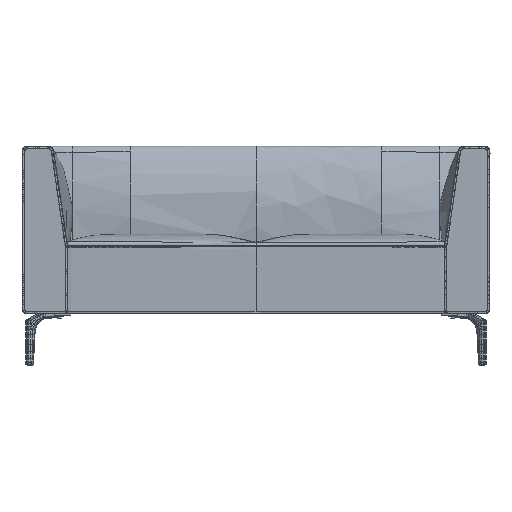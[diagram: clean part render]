
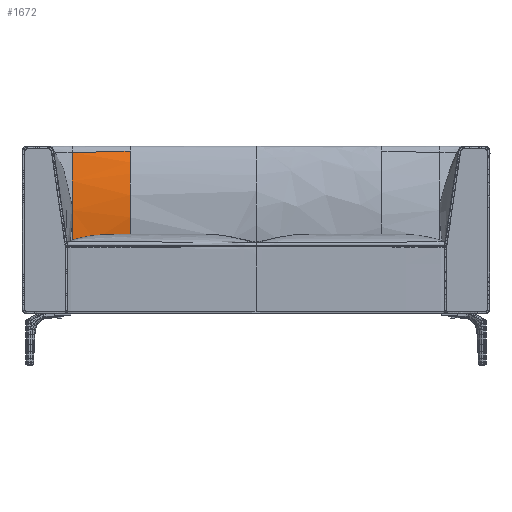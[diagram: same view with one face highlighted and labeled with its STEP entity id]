
A CAD part, front view. The second image highlights one B-rep face of the part: STEP entity #1672.
In plain terms, the highlighted free-form (B-spline) face has degree [3, 3] with [7, 7] control points.
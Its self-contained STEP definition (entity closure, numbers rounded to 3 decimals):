
#1672=ADVANCED_FACE('',(#3356),#24340,.T.);
#3356=FACE_OUTER_BOUND('',#5056,.T.);
#5056=EDGE_LOOP('',(#7639,#7640,#7641,#7642));
#7639=ORIENTED_EDGE('',*,*,#14741,.T.);
#7640=ORIENTED_EDGE('',*,*,#14742,.T.);
#7641=ORIENTED_EDGE('',*,*,#14743,.T.);
#7642=ORIENTED_EDGE('',*,*,#14771,.T.);
#14741=EDGE_CURVE('',#22268,#22269,#18303,.T.);
#14742=EDGE_CURVE('',#22269,#22270,#18304,.T.);
#14743=EDGE_CURVE('',#22270,#22271,#18305,.T.);
#14771=EDGE_CURVE('',#22271,#22268,#18332,.T.);
#18303=B_SPLINE_CURVE_WITH_KNOTS('',3,(#70292,#70293,#70294,#70295),
 .UNSPECIFIED.,.F.,.F.,(4,4),(0.,321.119),.UNSPECIFIED.);
#18304=B_SPLINE_CURVE_WITH_KNOTS('',3,(#70296,#70297,#70298,#70299,#70300),
 .UNSPECIFIED.,.F.,.F.,(4,1,4),(0.,164.748,198.679),
 .UNSPECIFIED.);
#18305=B_SPLINE_CURVE_WITH_KNOTS('',3,(#70301,#70302,#70303,#70304,#70305,
#70306,#70307,#70308,#70309,#70310),.UNSPECIFIED.,.F.,.F.,(4,2,2,2,4),(0.,
172.178,258.636,301.725,308.375),
 .UNSPECIFIED.);
#18332=B_SPLINE_CURVE_WITH_KNOTS('',3,(#70737,#70738,#70739,#70740,#70741,
#70742,#70743,#70744),.UNSPECIFIED.,.F.,.F.,(4,2,2,4),(-199.042,
-154.953,-122.395,0.),.UNSPECIFIED.);
#22268=VERTEX_POINT('',#69804);
#22269=VERTEX_POINT('',#69805);
#22270=VERTEX_POINT('',#69806);
#22271=VERTEX_POINT('',#69807);
#24340=(
BOUNDED_SURFACE()
B_SPLINE_SURFACE(3,3,((#44843,#44844,#44845,#44846,#44847,#44848,#44849),
(#44850,#44851,#44852,#44853,#44854,#44855,#44856),(#44857,#44858,#44859,
#44860,#44861,#44862,#44863),(#44864,#44865,#44866,#44867,#44868,#44869,
#44870),(#44871,#44872,#44873,#44874,#44875,#44876,#44877),(#44878,#44879,
#44880,#44881,#44882,#44883,#44884),(#44885,#44886,#44887,#44888,#44889,
#44890,#44891)),.UNSPECIFIED.,.F.,.F.,.F.)
B_SPLINE_SURFACE_WITH_KNOTS((4,3,4),(4,1,1,1,4),(1005.777,1044.277,
1369.411),(0.,164.689,329.379,494.068,
702.82),.UNSPECIFIED.)
GEOMETRIC_REPRESENTATION_ITEM()
RATIONAL_B_SPLINE_SURFACE(((1.,1.,1.,1.,1.,1.,1.),(1.,1.,1.,1.,1.,1.,1.),
(1.,1.,1.,1.,1.,1.,1.),(1.,1.,1.,1.,1.,1.,1.),(1.,1.,1.,1.,1.,1.,1.),(1.,
1.,1.,1.,1.,1.,1.),(1.,1.,1.,1.,1.,1.,1.)))
REPRESENTATION_ITEM('')
SURFACE()
);
#44843=CARTESIAN_POINT('',(-103.,191.695,404.474));
#44844=CARTESIAN_POINT('',(-157.896,191.695,404.517));
#44845=CARTESIAN_POINT('',(-267.689,191.686,392.156));
#44846=CARTESIAN_POINT('',(-432.379,191.674,374.905));
#44847=CARTESIAN_POINT('',(-611.756,191.686,391.163));
#44848=CARTESIAN_POINT('',(-736.236,191.695,404.425));
#44849=CARTESIAN_POINT('',(-805.82,191.695,404.474));
#44850=CARTESIAN_POINT('',(-103.,193.342,415.81));
#44851=CARTESIAN_POINT('',(-157.896,193.35,415.85));
#44852=CARTESIAN_POINT('',(-267.689,191.143,404.22));
#44853=CARTESIAN_POINT('',(-432.379,188.064,387.989));
#44854=CARTESIAN_POINT('',(-611.756,190.966,403.285));
#44855=CARTESIAN_POINT('',(-736.236,193.333,415.764));
#44856=CARTESIAN_POINT('',(-805.82,193.342,415.81));
#44857=CARTESIAN_POINT('',(-103.,194.989,427.146));
#44858=CARTESIAN_POINT('',(-157.896,195.004,427.184));
#44859=CARTESIAN_POINT('',(-267.689,190.6,416.284));
#44860=CARTESIAN_POINT('',(-432.379,184.453,401.072));
#44861=CARTESIAN_POINT('',(-611.756,190.246,415.408));
#44862=CARTESIAN_POINT('',(-736.236,194.972,427.103));
#44863=CARTESIAN_POINT('',(-805.82,194.989,427.146));
#44864=CARTESIAN_POINT('',(-103.,196.636,438.482));
#44865=CARTESIAN_POINT('',(-157.896,196.659,438.518));
#44866=CARTESIAN_POINT('',(-267.689,190.056,428.348));
#44867=CARTESIAN_POINT('',(-432.379,180.842,414.156));
#44868=CARTESIAN_POINT('',(-611.756,189.526,427.531));
#44869=CARTESIAN_POINT('',(-736.236,196.61,438.442));
#44870=CARTESIAN_POINT('',(-805.82,196.636,438.482));
#44871=CARTESIAN_POINT('',(-103.,210.547,534.217));
#44872=CARTESIAN_POINT('',(-157.896,210.635,534.231));
#44873=CARTESIAN_POINT('',(-267.689,185.468,530.23));
#44874=CARTESIAN_POINT('',(-432.379,150.348,524.647));
#44875=CARTESIAN_POINT('',(-611.756,183.447,529.909));
#44876=CARTESIAN_POINT('',(-736.236,210.448,534.201));
#44877=CARTESIAN_POINT('',(-805.82,210.547,534.217));
#44878=CARTESIAN_POINT('',(-103.,224.458,629.952));
#44879=CARTESIAN_POINT('',(-157.896,224.537,629.936));
#44880=CARTESIAN_POINT('',(-267.689,201.822,634.427));
#44881=CARTESIAN_POINT('',(-432.379,170.123,640.695));
#44882=CARTESIAN_POINT('',(-611.756,199.998,634.788));
#44883=CARTESIAN_POINT('',(-736.236,224.368,629.969));
#44884=CARTESIAN_POINT('',(-805.82,224.458,629.952));
#44885=CARTESIAN_POINT('',(-103.,238.369,725.686));
#44886=CARTESIAN_POINT('',(-157.896,238.373,725.673));
#44887=CARTESIAN_POINT('',(-267.689,237.224,729.568));
#44888=CARTESIAN_POINT('',(-432.379,235.622,735.004));
#44889=CARTESIAN_POINT('',(-611.756,237.132,729.881));
#44890=CARTESIAN_POINT('',(-736.236,238.364,725.702));
#44891=CARTESIAN_POINT('',(-805.82,238.369,725.686));
#69804=CARTESIAN_POINT('',(-432.379,181.406,430.434));
#69805=CARTESIAN_POINT('',(-432.379,236.12,733.314));
#69806=CARTESIAN_POINT('',(-630.988,237.353,729.131));
#69807=CARTESIAN_POINT('',(-630.988,190.877,426.281));
#70292=CARTESIAN_POINT('',(-432.379,181.406,430.434));
#70293=CARTESIAN_POINT('',(-432.379,162.687,534.591));
#70294=CARTESIAN_POINT('',(-432.379,182.034,642.211));
#70295=CARTESIAN_POINT('',(-432.379,236.12,733.314));
#70296=CARTESIAN_POINT('',(-432.379,236.12,733.314));
#70297=CARTESIAN_POINT('',(-487.275,236.084,733.436));
#70298=CARTESIAN_POINT('',(-553.478,236.641,731.545));
#70299=CARTESIAN_POINT('',(-619.681,237.251,729.478));
#70300=CARTESIAN_POINT('',(-630.988,237.353,729.131));
#70301=CARTESIAN_POINT('',(-630.988,237.353,729.131));
#70302=CARTESIAN_POINT('',(-630.988,218.805,675.585));
#70303=CARTESIAN_POINT('',(-630.988,205.71,619.813));
#70304=CARTESIAN_POINT('',(-630.988,194.391,535.424));
#70305=CARTESIAN_POINT('',(-630.988,191.993,506.986));
#70306=CARTESIAN_POINT('',(-630.988,190.548,464.363));
#70307=CARTESIAN_POINT('',(-630.988,190.423,450.169));
#70308=CARTESIAN_POINT('',(-630.988,190.7,433.797));
#70309=CARTESIAN_POINT('',(-630.988,190.736,431.978));
#70310=CARTESIAN_POINT('',(-630.988,190.877,426.281));
#70737=CARTESIAN_POINT('',(-630.988,190.877,426.281));
#70738=CARTESIAN_POINT('',(-624.576,190.538,427.166));
#70739=CARTESIAN_POINT('',(-621.806,190.385,427.238));
#70740=CARTESIAN_POINT('',(-607.612,189.583,427.503));
#70741=CARTESIAN_POINT('',(-598.784,189.074,427.661));
#70742=CARTESIAN_POINT('',(-530.476,184.77,429.137));
#70743=CARTESIAN_POINT('',(-482.451,181.079,430.621));
#70744=CARTESIAN_POINT('',(-432.379,181.406,430.434));
